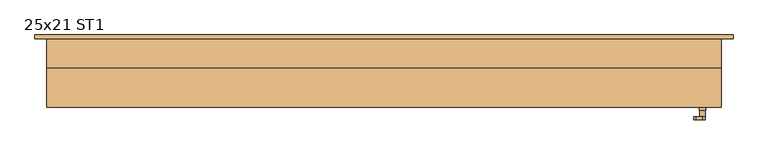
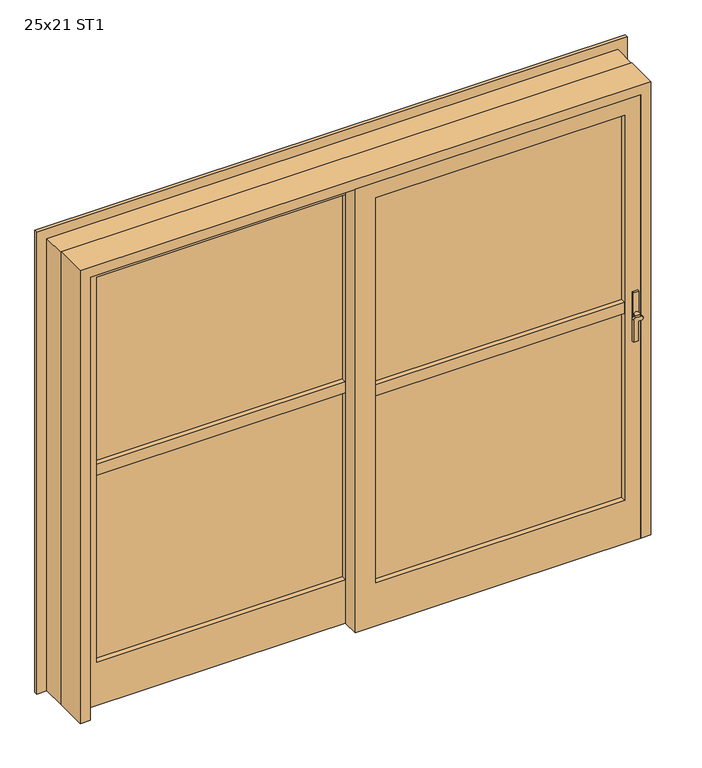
"""IFC4 building model written with IfcOpenShell, lengths in millimetres: door geometry, Balkongdor ST 1 : 25x21 ST1."""

from ifc_helpers import new_model, si_unit, point, frame, frame_2d, origin, place, context, project, spatial, polyline, circle_curve, trimmed, segment, composite_curve, outline, extrude, faceted_brep, source, transform, mapped, element, save


def door_25x21_st1_7496c36d(model_context):
    return source(origin(), model_context, "Body", "SolidModel", [
        extrude(outline(composite_curve([segment(trimmed(circle_curve(frame_2d((1050.0, 1152.0)), 10.0), [point((1060.0, 1152.0))], [point((1050.0, 1142.0))], False, "CARTESIAN"), True, "CONTINUOUS"), segment(polyline([(1050.0, 1142.0), (950.0, 1142.0), (950.0, 1162.0), (1040.0, 1162.0), (1040.0, 1174.0)]), True, "CONTINUOUS"), segment(trimmed(circle_curve(frame_2d((1050.0, 1174.0)), 10.0), [point((1040.0, 1174.0))], [point((1060.0, 1174.0))], False, "CARTESIAN"), True, "CONTINUOUS"), segment(polyline([(1060.0, 1174.0), (1060.0, 1152.0)]), True, "CONTINUOUS")], self_intersect=False)), frame((0.0, -15.0, 0.0), z_axis=(0.0, 1.0, 0.0), x_axis=(0.0, 0.0, 1.0)), (0.0, 0.0, 1.0), 10.0),
        extrude(outline(composite_curve([segment(trimmed(circle_curve(frame_2d((1050.0, 1174.0)), 10.0), [point((1050.0, 1184.0))], [point((1050.0, 1164.0))], False, "CARTESIAN"), True, "CONTINUOUS"), segment(trimmed(circle_curve(frame_2d((1050.0, 1174.0)), 10.0), [point((1050.0, 1164.0))], [point((1050.0, 1184.0))], False, "CARTESIAN"), True, "CONTINUOUS")], self_intersect=False)), frame((0.0, -40.0, 0.0), z_axis=(0.0, 1.0, 0.0), x_axis=(0.0, 0.0, 1.0)), (0.0, 0.0, 1.0), 25.0),
        extrude(outline(polyline([(1162.0, -40.0), (1186.0, -40.0), (1186.0, -50.0), (1162.0, -50.0), (1162.0, -40.0)])), frame((0.0, 0.0, 1020.0), z_axis=(0.0, 0.0, 1.0), x_axis=(1.0, 0.0, 0.0)), (0.0, 0.0, 1.0), 130.0),
        extrude(outline(composite_curve([segment(trimmed(circle_curve(frame_2d((1050.0, 1152.0)), 10.0), [point((1060.0, 1152.0))], [point((1050.0, 1142.0))], False, "CARTESIAN"), True, "CONTINUOUS"), segment(polyline([(1050.0, 1142.0), (950.0, 1142.0), (950.0, 1162.0), (1040.0, 1162.0), (1040.0, 1174.0)]), True, "CONTINUOUS"), segment(trimmed(circle_curve(frame_2d((1050.0, 1174.0)), 10.0), [point((1040.0, 1174.0))], [point((1060.0, 1174.0))], False, "CARTESIAN"), True, "CONTINUOUS"), segment(polyline([(1060.0, 1174.0), (1060.0, 1152.0)]), True, "CONTINUOUS")], self_intersect=False)), frame((0.0, -165.0, 0.0), z_axis=(0.0, 1.0, 0.0), x_axis=(0.0, 0.0, 1.0)), (0.0, 0.0, 1.0), 10.0),
        extrude(outline(composite_curve([segment(trimmed(circle_curve(frame_2d((1050.0, 1174.0)), 10.0), [point((1050.0, 1184.0))], [point((1050.0, 1164.0))], False, "CARTESIAN"), True, "CONTINUOUS"), segment(trimmed(circle_curve(frame_2d((1050.0, 1174.0)), 10.0), [point((1050.0, 1164.0))], [point((1050.0, 1184.0))], False, "CARTESIAN"), True, "CONTINUOUS")], self_intersect=False)), frame((0.0, -155.0, 0.0), z_axis=(0.0, 1.0, 0.0), x_axis=(0.0, 0.0, 1.0)), (0.0, 0.0, 1.0), 25.0),
        extrude(outline(polyline([(1162.0, -130.0), (1162.0, -120.0), (1186.0, -120.0), (1186.0, -130.0), (1162.0, -130.0)])), frame((0.0, 0.0, 1020.0), z_axis=(0.0, 0.0, 1.0), x_axis=(1.0, 0.0, 0.0)), (0.0, 0.0, 1.0), 130.0),
        extrude(outline(polyline([(-45.0, 1.0), (-45.0, -23.0), (-1129.0, -23.0), (-1129.0, 1.0), (-45.0, 1.0)])), frame((0.0, 0.0, 200.0), z_axis=(0.0, 0.0, 1.0), x_axis=(1.0, 0.0, 0.0)), (0.0, 0.0, 1.0), 861.5),
        extrude(outline(polyline([(-45.0, 1.0), (-45.0, -23.0), (-1129.0, -23.0), (-1129.0, 1.0), (-45.0, 1.0)])), frame((0.0, 0.0, 1111.5), z_axis=(0.0, 0.0, 1.0), x_axis=(1.0, 0.0, 0.0)), (0.0, 0.0, 1.0), 861.5),
        extrude(outline(polyline([(2043.0, 45.0), (2043.0, -1199.0), (0.0, -1199.0), (0.0, 45.0), (2043.0, 45.0)]), holes=[polyline([(200.0, -1129.0), (1973.0, -1129.0), (1973.0, -45.0), (200.0, -45.0), (200.0, -1129.0)])]), frame((0.0, -46.0, 0.0), z_axis=(0.0, 1.0, 0.0), x_axis=(0.0, 0.0, 1.0)), (0.0, 0.0, 1.0), 70.0),
        extrude(outline(polyline([(45.0, -97.0), (45.0, -73.0), (1129.0, -73.0), (1129.0, -97.0), (45.0, -97.0)])), frame((0.0, 0.0, 200.0), z_axis=(0.0, 0.0, 1.0), x_axis=(1.0, 0.0, 0.0)), (0.0, 0.0, 1.0), 861.5),
        extrude(outline(polyline([(45.0, -97.0), (45.0, -73.0), (1129.0, -73.0), (1129.0, -97.0), (45.0, -97.0)])), frame((0.0, 0.0, 1111.5), z_axis=(0.0, 0.0, 1.0), x_axis=(1.0, 0.0, 0.0)), (0.0, 0.0, 1.0), 861.5),
        extrude(outline(polyline([(0.0, -45.0), (0.0, 1199.0), (2043.0, 1199.0), (2043.0, -45.0), (0.0, -45.0)]), holes=[polyline([(200.0, 1129.0), (200.0, 45.0), (1973.0, 45.0), (1973.0, 1129.0), (200.0, 1129.0)])]), frame((0.0, -120.0, 0.0), z_axis=(0.0, 1.0, 0.0), x_axis=(0.0, 0.0, 1.0)), (0.0, 0.0, 1.0), 70.0),
        extrude(outline(polyline([(0.0, 1244.0), (2088.0, 1244.0), (2088.0, -1244.0), (0.0, -1244.0), (0.0, -1199.0), (2043.0, -1199.0), (2043.0, 1199.0), (0.0, 1199.0), (0.0, 1244.0)])), frame((0.0, -120.0, 0.0), z_axis=(0.0, 1.0, 0.0), x_axis=(0.0, 0.0, 1.0)), (0.0, 0.0, 1.0), 144.0),
        faceted_brep([(-1244.0, 132.0, 0.0), (-1287.0, 132.0, 0.0), (-1287.0, 147.0, 0.0), (-1229.0, 147.0, 0.0), (-1229.0, 24.0, 0.0), (-1244.0, 24.0, 0.0), (-1244.0, 24.0, 2084.0), (-1244.0, 132.0, 2084.0), (-1229.0, 24.0, 2069.0), (1229.0, 24.0, 2069.0), (1229.0, 24.0, 0.0), (1244.0, 24.0, 0.0), (1244.0, 24.0, 2084.0), (-1229.0, 147.0, 2069.0), (-1287.0, 147.0, 2127.0), (1287.0, 147.0, 2127.0), (1287.0, 147.0, 0.0), (1229.0, 147.0, 0.0), (1229.0, 147.0, 2069.0), (-1287.0, 132.0, 2127.0), (1244.0, 132.0, 2084.0), (1244.0, 132.0, 0.0), (1287.0, 132.0, 0.0), (1287.0, 132.0, 2127.0)], [[[0, 1, 2, 3, 4, 5]], [[5, 6, 7, 0]], [[4, 8, 9, 10, 11, 12, 6, 5]], [[3, 13, 8, 4]], [[2, 14, 15, 16, 17, 18, 13, 3]], [[1, 19, 14, 2]], [[0, 7, 20, 21, 22, 23, 19, 1]], [[12, 11, 21, 20]], [[21, 11, 10, 17, 16, 22]], [[18, 17, 10, 9]], [[23, 22, 16, 15]], [[6, 12, 20, 7]], [[13, 18, 9, 8]], [[19, 23, 15, 14]]]),
        extrude(outline(polyline([(1061.5, -1129.0), (1061.5, -45.0), (1111.5, -45.0), (1111.5, -1129.0), (1086.5, -1129.0), (1061.5, -1129.0)])), frame((0.0, -46.0, 0.0), z_axis=(0.0, 1.0, 0.0), x_axis=(0.0, 0.0, 1.0)), (0.0, 0.0, 1.0), 70.0),
        extrude(outline(polyline([(1061.5, 45.0), (1061.5, 1129.0), (1086.5, 1129.0), (1111.5, 1129.0), (1111.5, 45.0), (1061.5, 45.0)])), frame((0.0, -120.0, 0.0), z_axis=(0.0, 1.0, 0.0), x_axis=(0.0, 0.0, 1.0)), (0.0, 0.0, 1.0), 70.0),
    ])


if __name__ == "__main__":
    model = new_model("IFC4")
    model_context = context("Model", 3, world=origin())
    ifc_project = project(units=[si_unit("LENGTHUNIT", "METRE", prefix="MILLI")], contexts=[model_context])
    site = spatial("IfcSite", under=ifc_project)
    building = spatial("IfcBuilding", under=site)
    placement = place(None, origin())
    door_25x21_st1_shape = door_25x21_st1_7496c36d(model_context)
    element("IfcDoor", 1, ObjectType="Balkongdor ST 1 : 25x21 ST1", at=placement, inside=building, context=model_context, shape_type="MappedRepresentation", body=[
        mapped(door_25x21_st1_shape, transform((0.0, 0.0, 0.0), x_axis=(1.0, 0.0, 0.0), y_axis=(0.0, 1.0, 0.0), z_axis=(0.0, 0.0, 1.0))),
    ])
    save(model, "model.ifc")
